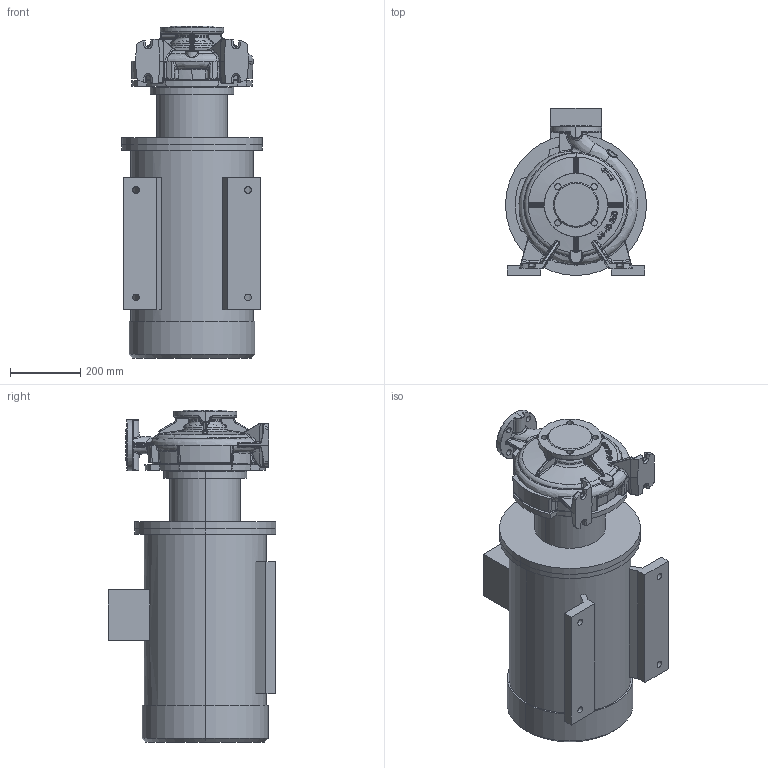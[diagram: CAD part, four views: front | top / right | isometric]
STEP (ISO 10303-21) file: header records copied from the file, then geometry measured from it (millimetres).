
FILE_DESCRIPTION (( 'STEP AP214' ), '1' );
FILE_NAME ('KRM 65-40-250-2-30.STEP', '2026-04-24T12:01:39', ( '' ), ( '' ), 'SwSTEP 2.0', 'SolidWorks 2016', '' );
FILE_SCHEMA (( 'AUTOMOTIVE_DESIGN' ));
Length unit declared in the file: millimetre
Products named in the file (1): KRM 65-40-250-2-30
Bounding box: 400 x 475 x 942.3 mm (x, y, z)
Volume: 80801529.2 mm3; surface area: 2306274.3 mm2
Topology: 4 solids, 4 shells, 1173 faces, 2853 edges, 1692 vertices
Faces by surface type: bspline 533, cylinder 218, plane 214, torus 96, cone 82, sphere 30
Entity records: 84928 total; most frequent: CARTESIAN_POINT 48889, ORIENTED_EDGE 5652, DIRECTION 3729, EDGE_CURVE 2826, VERTEX_POINT 1692, AXIS2_PLACEMENT_3D 1571, EDGE_LOOP 1228, UNCERTAINTY_MEASURE_WITH_UNIT 1179
